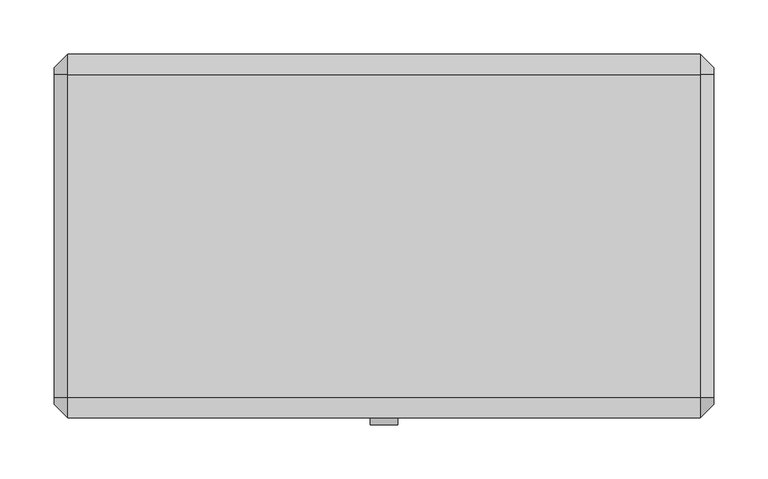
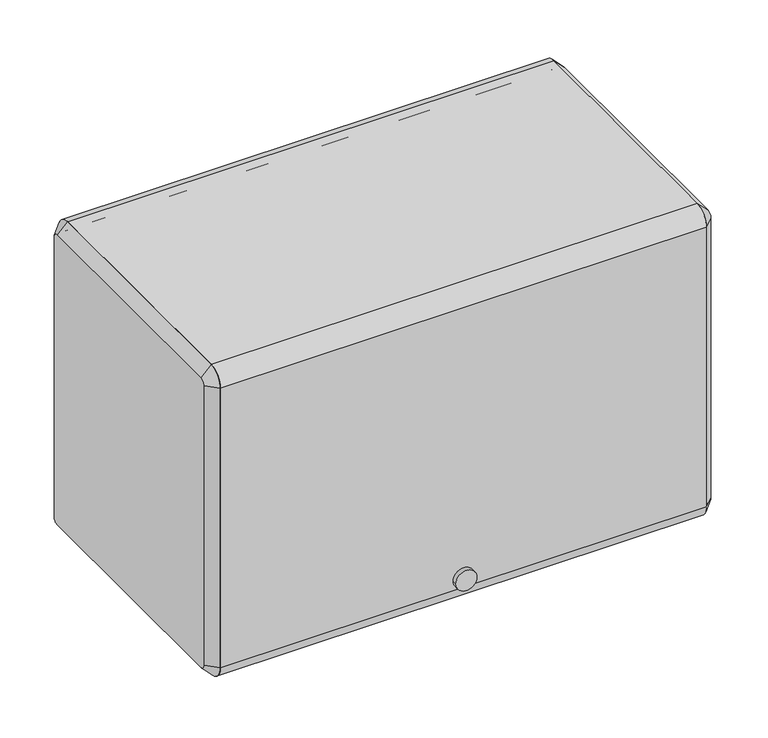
"""IFC4 building model written with IfcOpenShell, lengths in millimetres: furniture geometry."""

import ifcopenshell
import ifcopenshell.guid

model = None  # the IFC model being written
_history = None  # IfcOwnerHistory: only IFC2X3 demands one
_inside = {}  # id of a spatial element -> (the spatial element, [elements in it])
_under = {}  # id of a project, library or spatial element -> (it, [spatial elements below it])
_declared = {}  # id of a project -> (the project, [libraries it declares])
_typed = {}  # id of a type object -> (the type object, [elements of that type])
_made_of = {}  # id of a material, layer set ... -> (it, [elements and type objects made of it])


def new_model(schema):
    """Start an empty IFC model of exactly this schema.

    Asked for "IFC4X3", IfcOpenShell would pick the latest addendum, in which some entities
    have other attributes; the version numbers below select the first issue.
    IFC2X3 requires an IfcOwnerHistory on every rooted entity: one is made here for all.
    """
    global model, _history
    if schema == "IFC4X3":
        model = ifcopenshell.file(schema_version=(4, 3, 0, 0))
    else:
        model = ifcopenshell.file(schema=schema)
    _inside.clear()
    _under.clear()
    _declared.clear()
    _typed.clear()
    _made_of.clear()
    _history = None
    if model.schema == "IFC2X3":
        org = make("IfcOrganization", Name="unknown")
        user = make(
            "IfcPersonAndOrganization",
            ThePerson=make("IfcPerson", FamilyName="unknown"),
            TheOrganization=org,
        )
        app = make(
            "IfcApplication",
            ApplicationDeveloper=org,
            Version="unknown",
            ApplicationFullName="unknown",
            ApplicationIdentifier="unknown",
        )
        _history = make(
            "IfcOwnerHistory",
            OwningUser=user,
            OwningApplication=app,
            ChangeAction="ADDED",
            CreationDate=0,
        )
    return model


def make(cls, **values):
    """One entity of the class cls with the attributes given. An attribute that is None is left unset."""
    return model.create_entity(
        cls, **{name: value for name, value in values.items() if value is not None}
    )


def rooted(cls, **values):
    """An entity with a GlobalId (a new one), such as an element, a storey or a relation."""
    return make(cls, GlobalId=ifcopenshell.guid.new(), OwnerHistory=_history, **values)


def si_unit(unit_type, name, prefix=None):
    """IfcSIUnit, for example si_unit("LENGTHUNIT", "METRE", prefix="MILLI")."""
    return make("IfcSIUnit", UnitType=unit_type, Prefix=prefix, Name=name)


def assignment(units):
    """IfcUnitAssignment: the units of a project."""
    return None if units is None else make("IfcUnitAssignment", Units=units)


def point(xyz):
    """IfcCartesianPoint."""
    return None if xyz is None else make("IfcCartesianPoint", Coordinates=xyz)


def direction(xyz):
    """IfcDirection."""
    return None if xyz is None else make("IfcDirection", DirectionRatios=xyz)


def frame(location, z_axis=None, x_axis=None):
    """IfcAxis2Placement3D, a coordinate frame: its origin and axes. An axis left out is left unset."""
    return make(
        "IfcAxis2Placement3D",
        Location=point(location),
        Axis=direction(z_axis),
        RefDirection=direction(x_axis),
    )


def frame_2d(location, x_axis=None):
    """IfcAxis2Placement2D, a coordinate frame in the plane: its origin and x axis."""
    return make(
        "IfcAxis2Placement2D", Location=point(location), RefDirection=direction(x_axis)
    )


def origin():
    """The frame at (0, 0, 0) with its axes left unset."""
    return frame((0.0, 0.0, 0.0))


def place(relative_to, where):
    """IfcLocalPlacement: puts the frame where relative to a parent placement (None: the world)."""
    return make(
        "IfcLocalPlacement", PlacementRelTo=relative_to, RelativePlacement=where
    )


def context(
    kind, dimensions, precision=None, world=None, true_north=None, identifier=None
):
    """IfcGeometricRepresentationContext, for example the 3D "Model" context."""
    return make(
        "IfcGeometricRepresentationContext",
        ContextIdentifier=identifier,
        ContextType=kind,
        CoordinateSpaceDimension=dimensions,
        Precision=precision,
        WorldCoordinateSystem=world,
        TrueNorth=true_north,
    )


def project(units=None, contexts=None):
    """IfcProject with its units and contexts."""
    return rooted(
        "IfcProject",
        Name="project",
        RepresentationContexts=contexts,
        UnitsInContext=assignment(units),
    )


def spatial(cls, under=None, at=None, **own):
    """A site, building, storey or space (cls), placed at a placement, below another one or the project."""
    s = rooted(cls, ObjectPlacement=at, **own)
    if under is not None:
        _under.setdefault(under.id(), (under, []))[1].append(s)
    return s


def polyline(points):
    """IfcPolyline through the points."""
    return make("IfcPolyline", Points=[point(p) for p in points])


def circle_curve(where, radius):
    """IfcCircle in the frame where."""
    return make("IfcCircle", Position=where, Radius=radius)


def trimmed(basis, trim1, trim2, sense, master):
    """IfcTrimmedCurve: the piece of a basis curve between two trims."""
    return make(
        "IfcTrimmedCurve",
        BasisCurve=basis,
        Trim1=trim1,
        Trim2=trim2,
        SenseAgreement=sense,
        MasterRepresentation=master,
    )


def segment(curve, same_sense, transition):
    """IfcCompositeCurveSegment."""
    return make(
        "IfcCompositeCurveSegment",
        Transition=transition,
        SameSense=same_sense,
        ParentCurve=curve,
    )


def composite_curve(segments, self_intersect=None):
    """IfcCompositeCurve: segments joined end to end."""
    return make("IfcCompositeCurve", Segments=segments, SelfIntersect=self_intersect)


def outline(outer, holes=None, kind="AREA"):
    """IfcArbitraryClosedProfileDef: a profile drawn as a closed curve; with holes, ...WithVoids."""
    if holes is None:
        return make("IfcArbitraryClosedProfileDef", ProfileType=kind, OuterCurve=outer)
    return make(
        "IfcArbitraryProfileDefWithVoids",
        ProfileType=kind,
        OuterCurve=outer,
        InnerCurves=holes,
    )


def extrude(swept, where, along, depth):
    """IfcExtrudedAreaSolid: the profile swept, set in the frame where, extruded along a direction by depth."""
    return make(
        "IfcExtrudedAreaSolid",
        SweptArea=swept,
        Position=where,
        ExtrudedDirection=direction(along),
        Depth=depth,
    )


def shape(context_of_items, identifier, shape_type, items):
    """IfcShapeRepresentation: the items that make up one representation, for example the "Body"."""
    return make(
        "IfcShapeRepresentation",
        ContextOfItems=context_of_items,
        RepresentationIdentifier=identifier,
        RepresentationType=shape_type,
        Items=items,
    )


def source(mapping_origin, context_of_items, identifier, shape_type, items):
    """IfcRepresentationMap: a shape defined once, which mapped items show again and again."""
    return make(
        "IfcRepresentationMap",
        MappingOrigin=mapping_origin,
        MappedRepresentation=shape(context_of_items, identifier, shape_type, items),
    )


def transform(
    local_origin,
    x_axis=None,
    y_axis=None,
    z_axis=None,
    scale=None,
    scale2=None,
    scale3=None,
    uniform=True,
):
    """IfcCartesianTransformationOperator3D, or its non-uniform kind. x_axis, y_axis, z_axis: its Axis1, 2, 3."""
    if uniform:
        return make(
            "IfcCartesianTransformationOperator3D",
            Axis1=direction(x_axis),
            Axis2=direction(y_axis),
            LocalOrigin=point(local_origin),
            Scale=scale,
            Axis3=direction(z_axis),
        )
    return make(
        "IfcCartesianTransformationOperator3DnonUniform",
        Axis1=direction(x_axis),
        Axis2=direction(y_axis),
        LocalOrigin=point(local_origin),
        Scale=scale,
        Axis3=direction(z_axis),
        Scale2=scale2,
        Scale3=scale3,
    )


def mapped(mapping_source, mapping_target):
    """IfcMappedItem: shows the shape of a source again, moved by a transform."""
    return make(
        "IfcMappedItem", MappingSource=mapping_source, MappingTarget=mapping_target
    )


def made_of(thing, what):
    """Note that an element or type object is made of a material, layer set ...; save() writes the relation."""
    if what is not None:
        _made_of.setdefault(what.id(), (what, []))[1].append(thing)
    return thing


def element(
    cls,
    number,
    at=None,
    inside=None,
    cuts=None,
    type_object=None,
    material=None,
    context=None,
    identifier="Body",
    shape_type=None,
    held_by="IfcProductDefinitionShape",
    body=None,
    shapes=None,
    **own,
):
    """One element of the class cls, such as IfcWall. Its Tag is "e" and its number.

    at: its placement. inside: the storey or other place that contains it. cuts: it is an
    opening in that element (IfcRelVoidsElement). A single representation is given by context,
    identifier, shape_type and body (its items); several are given by shapes. held_by: the class
    of the entity that holds the representations. save() writes the other relations.
    """
    e = rooted(cls, Tag="e%d" % number, ObjectPlacement=at, **own)
    if body is not None:
        shapes = [shape(context, identifier, shape_type, body)]
    if shapes is not None:
        e.Representation = make(held_by, Representations=shapes)
    if inside is not None:
        _inside.setdefault(inside.id(), (inside, []))[1].append(e)
    if cuts is not None:
        rooted(
            "IfcRelVoidsElement", RelatingBuildingElement=cuts, RelatedOpeningElement=e
        )
    if type_object is not None:
        _typed.setdefault(type_object.id(), (type_object, []))[1].append(e)
    return made_of(e, material)


def aggregate(whole, parts):
    """IfcRelAggregates: a whole, such as a stair, and the parts it consists of."""
    return rooted("IfcRelAggregates", RelatingObject=whole, RelatedObjects=parts)


def save(model, path):
    """Write the relations noted so far, then the file.

    IfcRelAggregates (storeys below a building ...), IfcRelContainedInSpatialStructure (elements
    in a storey), IfcRelDefinesByType, IfcRelAssociatesMaterial and IfcRelDeclares: one each for
    every whole, place, type object, material and project.
    """
    for whole, parts in _under.values():
        aggregate(whole, parts)
    for where, things in _inside.values():
        rooted(
            "IfcRelContainedInSpatialStructure",
            RelatedElements=things,
            RelatingStructure=where,
        )
    for kind, things in _typed.values():
        rooted("IfcRelDefinesByType", RelatedObjects=things, RelatingType=kind)
    for what, things in _made_of.values():
        rooted("IfcRelAssociatesMaterial", RelatedObjects=things, RelatingMaterial=what)
    for by, libraries in _declared.values():
        rooted("IfcRelDeclares", RelatingContext=by, RelatedDefinitions=libraries)
    model.write(path)


def plane_surface(at):
    """IfcPlane: the flat surface through the origin of the frame at, square to its z axis."""
    return make("IfcPlane", Position=at)


def revolved_surface(curve, axis_point, axis_direction):
    """IfcSurfaceOfRevolution: the curve turned about the line through axis_point along axis_direction."""
    return make(
        "IfcSurfaceOfRevolution",
        SweptCurve=make("IfcArbitraryOpenProfileDef", ProfileType="CURVE", Curve=curve),
        AxisPosition=make("IfcAxis1Placement", Location=point(axis_point), Axis=direction(axis_direction)),
    )


def advanced_brep(points, edges, surfaces, faces):
    """IfcAdvancedBrep: a solid bounded by faces that lie on surfaces and meet in shared edges.

    An edge is (start, end): straight between two places in points (the first is 0);
    or (start, end, curve); or (start, end, curve, False) where it runs against its curve.
    A face is (place in surfaces, loops), or (place, loops, False) where it looks against
    its surface's normal. A loop lists edges by number (the first is 1), with a minus sign
    where the edge is run from its end to its start. The first loop is the outer one.
    """
    corners = [point(p) for p in points]
    vertices = [make("IfcVertexPoint", VertexGeometry=c) for c in corners]
    made = []
    for start, end, *more in edges:
        made.append(
            make(
                "IfcEdgeCurve",
                EdgeStart=vertices[start],
                EdgeEnd=vertices[end],
                EdgeGeometry=more[0] if more else make("IfcPolyline", Points=[corners[start], corners[end]]),
                SameSense=more[1] if len(more) > 1 else True,
            )
        )
    hull = []
    for where, loops, *sense in faces:
        bounds = []
        for j, loop in enumerate(loops):
            ring = [make("IfcOrientedEdge", EdgeElement=made[abs(k) - 1], Orientation=k > 0) for k in loop]
            bounds.append(
                make(
                    "IfcFaceOuterBound" if j == 0 else "IfcFaceBound",
                    Bound=make("IfcEdgeLoop", EdgeList=ring),
                    Orientation=True,
                )
            )
        hull.append(make("IfcAdvancedFace", Bounds=bounds, FaceSurface=surfaces[where], SameSense=sense[0] if sense else True))
    return make("IfcAdvancedBrep", Outer=make("IfcClosedShell", CfsFaces=hull))


def furniture_0d49a17f(model_context):
    return source(origin(), model_context, "Body", "SolidModel", [
        extrude(outline(composite_curve([segment(polyline([(-136.525, 1689.1), (-136.525, 1701.8), (161.925, 1701.8)]), True, "CONTINUOUS"), segment(trimmed(circle_curve(frame_2d((161.925, 1682.75)), 19.05), [point((161.925, 1701.8))], [point((180.975, 1682.75))], False, "CARTESIAN"), True, "CONTINUOUS"), segment(polyline([(180.975, 1682.75), (168.275, 1682.75)]), True, "CONTINUOUS"), segment(trimmed(circle_curve(frame_2d((161.925, 1682.75)), 6.35), [point((168.275, 1682.75))], [point((161.925, 1689.1))], True, "CARTESIAN"), True, "CONTINUOUS"), segment(polyline([(161.925, 1689.1), (-136.525, 1689.1)]), True, "CONTINUOUS")], self_intersect=False)), frame((-292.1, 0.0, 0.0), z_axis=(1.0, 0.0, 0.0), x_axis=(0.0, 1.0, 0.0)), (0.0, 0.0, 1.0), 584.2),
        extrude(outline(composite_curve([segment(trimmed(circle_curve(frame_2d((-136.525, 1682.75)), 19.05), [point((-155.575, 1682.75))], [point((-136.525, 1701.8))], False, "CARTESIAN"), True, "CONTINUOUS"), segment(polyline([(-136.525, 1701.8), (-136.525, 1689.1)]), True, "CONTINUOUS"), segment(trimmed(circle_curve(frame_2d((-136.525, 1682.75)), 6.35), [point((-136.525, 1689.1))], [point((-142.875, 1682.75))], True, "CARTESIAN"), True, "CONTINUOUS"), segment(polyline([(-142.875, 1682.75), (-142.875, 1327.15)]), True, "CONTINUOUS"), segment(trimmed(circle_curve(frame_2d((-136.525, 1327.15)), 6.35), [point((-142.875, 1327.15))], [point((-136.525, 1320.8))], True, "CARTESIAN"), True, "CONTINUOUS"), segment(polyline([(-136.525, 1320.8), (-136.525, 1308.1)]), True, "CONTINUOUS"), segment(trimmed(circle_curve(frame_2d((-136.525, 1327.15)), 19.05), [point((-136.525, 1308.1))], [point((-155.575, 1327.15))], False, "CARTESIAN"), True, "CONTINUOUS"), segment(polyline([(-155.575, 1327.15), (-155.575, 1682.75)]), True, "CONTINUOUS")], self_intersect=False)), frame((-292.1, 0.0, 0.0), z_axis=(1.0, 0.0, 0.0), x_axis=(0.0, 1.0, 0.0)), (0.0, 0.0, 1.0), 584.2),
        extrude(outline(composite_curve([segment(trimmed(circle_curve(frame_2d((1339.8118906, 0.0201199)), 12.7253951), [point((1339.8118906, 12.745515))], [point((1339.8118906, -12.7052752))], False, "CARTESIAN"), True, "CONTINUOUS"), segment(trimmed(circle_curve(frame_2d((1339.8118906, 0.0201199)), 12.7253951), [point((1339.8118906, -12.7052752))], [point((1339.8118906, 12.745515))], False, "CARTESIAN"), True, "CONTINUOUS")], self_intersect=False)), frame((0.0, -161.925, 0.0), z_axis=(0.0, 1.0, 0.0), x_axis=(0.0, 0.0, 1.0)), (0.0, 0.0, 1.0), 6.35),
        extrude(outline(polyline([(-136.525, 1346.2), (161.925, 1346.2), (161.925, 1384.3), (174.625, 1384.3), (174.625, 1381.125), (165.1, 1381.125), (165.1, 1343.025), (-133.35, 1343.025), (-133.35, 1323.975), (-136.525, 1323.975), (-136.525, 1346.2)])), frame((-292.1, 0.0, 0.0), z_axis=(1.0, 0.0, 0.0), x_axis=(0.0, 1.0, 0.0)), (0.0, 0.0, 1.0), 584.2),
        advanced_brep(
        [(304.8, 161.925, 1689.1), (304.8, -136.525, 1689.1), (304.8, -142.875, 1682.75), (304.8, -142.875, 1327.15), (304.8, -136.525, 1320.8), (304.8, 161.925, 1320.8), (304.8, 168.275, 1327.15), (304.8, 168.275, 1682.75), (292.1, 161.925, 1701.8), (292.1, 180.975, 1682.75), (292.1, 180.975, 1327.15), (292.1, 161.925, 1308.1), (292.1, -136.525, 1308.1), (292.1, -155.575, 1327.15), (292.1, -155.575, 1682.75), (292.1, -136.525, 1701.8)],
        [
            (0, 1),
            (1, 2, circle_curve(frame((304.8, -136.525, 1682.75), z_axis=(1.0, 6.493472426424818e-12, -6.608047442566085e-12), x_axis=(6.608048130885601e-12, 0.0, 1.0)), 6.35)),
            (2, 3),
            (3, 4, circle_curve(frame((304.8, -136.525, 1327.15), z_axis=(1.0, 3.375966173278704e-12, 3.3679725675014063e-12), x_axis=(3.3760128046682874e-12, -1.0, 0.0)), 6.35)),
            (4, 5),
            (5, 6, circle_curve(frame((304.8, 161.925, 1327.15), z_axis=(1.0, 3.378630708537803e-12, -3.4106051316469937e-12), x_axis=(-3.41055483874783e-12, 0.0, -1.0)), 6.35)),
            (6, 7),
            (7, 0, circle_curve(frame((304.8, 161.925, 1682.75), z_axis=(1.0, 6.4828142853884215e-12, 6.373568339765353e-12), x_axis=(-6.482754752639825e-12, 1.0, 0.0)), 6.35)),
            (8, 9, circle_curve(frame((292.1, 161.925, 1682.75), z_axis=(-1.0, -6.4828142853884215e-12, -6.373568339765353e-12), x_axis=(-6.482754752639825e-12, 1.0, 0.0)), 19.05)),
            (9, 10),
            (10, 11, circle_curve(frame((292.1, 161.925, 1327.15), z_axis=(-1.0, -3.378630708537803e-12, 3.4106051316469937e-12), x_axis=(-3.41055483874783e-12, 0.0, -1.0)), 19.05)),
            (11, 12),
            (12, 13, circle_curve(frame((292.1, -136.525, 1327.15), z_axis=(-1.0, -3.375966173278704e-12, -3.3679725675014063e-12), x_axis=(3.3760128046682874e-12, -1.0, 0.0)), 19.05)),
            (13, 14),
            (14, 15, circle_curve(frame((292.1, -136.525, 1682.75), z_axis=(-1.0, -6.493472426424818e-12, 6.608047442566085e-12), x_axis=(6.608048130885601e-12, 0.0, 1.0)), 19.05)),
            (15, 8),
            (15, 1),
            (0, 8),
            (14, 2),
            (13, 3),
            (12, 4),
            (11, 5),
            (10, 6),
            (9, 7),
        ],
        [
            plane_surface(frame((304.8, 12.7, 1504.95), z_axis=(1.0, 0.0, 0.0), x_axis=(0.0, -1.0, 0.0))),
            plane_surface(frame((292.1, 12.7, 1504.95), z_axis=(-1.0, 0.0, 0.0), x_axis=(0.0, -1.0, 0.0))),
            plane_surface(frame((292.1, 12.7, 1701.8), z_axis=(0.7071067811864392, 0.0, 0.7071067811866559), x_axis=(0.0, -1.0, 0.0))),
            revolved_surface(polyline([(304.80000000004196, -136.525, 1689.099999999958), (292.1, -136.525, 1701.8)]), (311.15, -136.525, 1682.75), (-1.0, -6.493472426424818e-12, 6.608047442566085e-12)),
            plane_surface(frame((292.1, -155.575, 1504.95), z_axis=(0.707106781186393, -0.707106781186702, 0.0), x_axis=(0.0, 0.0, -1.0))),
            revolved_surface(polyline([(304.80000000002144, -142.87499999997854, 1327.15), (292.1, -155.575, 1327.15)]), (311.15, -136.525, 1327.15), (-1.0, -3.375966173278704e-12, -3.3679725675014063e-12)),
            plane_surface(frame((292.1, 12.7, 1308.1), z_axis=(0.7071067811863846, 0.0, -0.7071067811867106), x_axis=(0.0, 1.0, 0.0))),
            revolved_surface(polyline([(304.8, 161.925, 1320.8), (292.09999999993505, 161.925, 1308.0999999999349)]), (311.15, 161.925, 1327.15), (-1.0, -3.378630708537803e-12, 3.4106051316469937e-12)),
            plane_surface(frame((292.1, 180.975, 1504.95), z_axis=(0.7071067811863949, 0.7071067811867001, 0.0), x_axis=(0.0, 0.0, 1.0))),
            revolved_surface(polyline([(304.8, 168.27499999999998, 1682.75), (292.0999999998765, 180.9750000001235, 1682.75)]), (311.15, 161.925, 1682.75), (-1.0, -6.4828142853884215e-12, -6.373568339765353e-12)),
        ],
        [
            (0, [[1, 2, 3, 4, 5, 6, 7, 8]]),
            (1, [[9, 10, 11, 12, 13, 14, 15, 16]]),
            (2, [[-16, 17, -1, 18]]),
            (3, [[-15, 19, -2, -17]]),
            (4, [[-14, 20, -3, -19]]),
            (5, [[-13, 21, -4, -20]]),
            (6, [[-12, 22, -5, -21]]),
            (7, [[-11, 23, -6, -22]]),
            (8, [[-10, 24, -7, -23]]),
            (9, [[-9, -18, -8, -24]]),
        ],
    ),
        advanced_brep(
        [(-304.8, -136.525, 1689.1), (-304.8, 161.925, 1689.1), (-304.8, 168.275, 1682.75), (-304.8, 168.275, 1327.15), (-304.8, 161.925, 1320.8), (-304.8, -136.525, 1320.8), (-304.8, -142.875, 1327.15), (-304.8, -142.875, 1682.75), (-292.1, -136.525, 1701.8), (-292.1, -155.575, 1682.75), (-292.1, -155.575, 1327.15), (-292.1, -136.525, 1308.1), (-292.1, 161.925, 1308.1), (-292.1, 180.975, 1327.15), (-292.1, 180.975, 1682.75), (-292.1, 161.925, 1701.8)],
        [
            (0, 1),
            (1, 2, circle_curve(frame((-304.8, 161.925, 1682.75), z_axis=(-1.0, 3.365308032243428e-12, 3.474553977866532e-12), x_axis=(3.4746146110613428e-12, 0.0, 1.0)), 6.35)),
            (2, 3),
            (3, 4, circle_curve(frame((-304.8, 161.925, 1327.15), z_axis=(-1.0, 0.0, 0.0), x_axis=(0.0, 1.0, 0.0)), 6.35)),
            (4, 5),
            (5, 6, circle_curve(frame((-304.8, -136.525, 1327.15), z_axis=(-1.0, 0.0, 0.0), x_axis=(0.0, 0.0, -1.0)), 6.35)),
            (6, 7),
            (7, 0, circle_curve(frame((-304.8, -136.525, 1682.75), z_axis=(-1.0, 3.381295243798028e-12, -3.2827074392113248e-12), x_axis=(-3.3813511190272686e-12, -1.0, 0.0)), 6.35)),
            (8, 9, circle_curve(frame((-292.1, -136.525, 1682.75), z_axis=(1.0, -3.381295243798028e-12, 3.2827074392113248e-12), x_axis=(-3.3813511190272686e-12, -1.0, 0.0)), 19.05)),
            (9, 10),
            (10, 11, circle_curve(frame((-292.1, -136.525, 1327.15), z_axis=(1.0, 0.0, 0.0), x_axis=(0.0, 0.0, -1.0)), 19.05)),
            (11, 12),
            (12, 13, circle_curve(frame((-292.1, 161.925, 1327.15), z_axis=(1.0, 0.0, 0.0), x_axis=(0.0, 1.0, 0.0)), 19.05)),
            (13, 14),
            (14, 15, circle_curve(frame((-292.1, 161.925, 1682.75), z_axis=(1.0, -3.365308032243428e-12, -3.474553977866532e-12), x_axis=(3.4746146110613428e-12, 0.0, 1.0)), 19.05)),
            (15, 8),
            (15, 1),
            (0, 8),
            (14, 2),
            (13, 3),
            (12, 4),
            (11, 5),
            (10, 6),
            (9, 7),
        ],
        [
            plane_surface(frame((-304.8, 12.7, 1504.95), z_axis=(-1.0, 0.0, 0.0), x_axis=(0.0, -1.0, 0.0))),
            plane_surface(frame((-292.1, 12.7, 1504.95), z_axis=(1.0, 0.0, 0.0), x_axis=(0.0, -1.0, 0.0))),
            plane_surface(frame((-292.1, 12.7, 1701.8), z_axis=(-0.7071067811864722, 0.0, 0.707106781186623), x_axis=(0.0, 1.0, 0.0))),
            revolved_surface(polyline([(-304.8, 161.925, 1689.1), (-292.09999999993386, 161.925, 1701.8000000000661)]), (-311.15, 161.925, 1682.75), (1.0, -3.365308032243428e-12, -3.474553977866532e-12)),
            plane_surface(frame((-292.1, 180.975, 1504.95), z_axis=(-0.7071067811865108, 0.7071067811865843, 0.0), x_axis=(0.0, 0.0, -1.0))),
            revolved_surface(polyline([(-304.8, 168.27499999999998, 1327.15), (-292.1, 180.975, 1327.15)]), (-311.15, 161.925, 1327.15), (1.0, 0.0, 0.0)),
            plane_surface(frame((-292.1, 12.7, 1308.1), z_axis=(-0.7071067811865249, 0.0, -0.7071067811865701), x_axis=(0.0, -1.0, 0.0))),
            revolved_surface(polyline([(-304.8, -136.525, 1320.8), (-292.1, -136.525, 1308.1)]), (-311.15, -136.525, 1327.15), (1.0, 0.0, 0.0)),
            plane_surface(frame((-292.1, -155.575, 1504.95), z_axis=(-0.7071067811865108, -0.7071067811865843, 0.0), x_axis=(0.0, 0.0, 1.0))),
            revolved_surface(polyline([(-304.8000000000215, -142.8749999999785, 1682.75), (-292.1, -155.575, 1682.75)]), (-311.15, -136.525, 1682.75), (1.0, -3.381295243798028e-12, 3.2827074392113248e-12)),
        ],
        [
            (0, [[1, 2, 3, 4, 5, 6, 7, 8]]),
            (1, [[9, 10, 11, 12, 13, 14, 15, 16]]),
            (2, [[-16, 17, -1, 18]]),
            (3, [[-15, 19, -2, -17]]),
            (4, [[-14, 20, -3, -19]]),
            (5, [[-13, 21, -4, -20]]),
            (6, [[-12, 22, -5, -21]]),
            (7, [[-11, 23, -6, -22]]),
            (8, [[-10, 24, -7, -23]]),
            (9, [[-9, -18, -8, -24]]),
        ],
    ),
    ])


if __name__ == "__main__":
    model = new_model("IFC4")
    model_context = context("Model", 3, world=origin())
    ifc_project = project(units=[si_unit("LENGTHUNIT", "METRE", prefix="MILLI")], contexts=[model_context])
    site = spatial("IfcSite", under=ifc_project)
    building = spatial("IfcBuilding", under=site)
    placement = place(None, origin())
    furniture_shape = furniture_0d49a17f(model_context)
    element("IfcFurniture", 1, ObjectType="HermanMiller_ActionOffice_A3352_B-StyleFlipperDoorUnit : 15 1/2\"H x 13\"D x 24\"W", at=placement, inside=building, context=model_context, shape_type="MappedRepresentation", body=[
        mapped(furniture_shape, transform((0.0, 0.0, 0.0), x_axis=(1.0, 0.0, 0.0), y_axis=(0.0, 1.0, 0.0), z_axis=(0.0, 0.0, 1.0))),
    ])
    save(model, "model.ifc")
